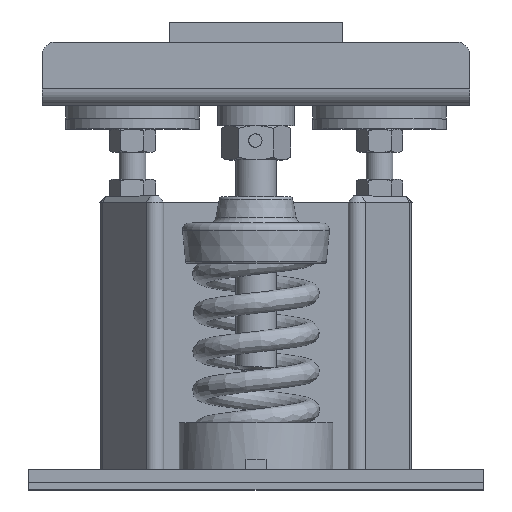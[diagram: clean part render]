
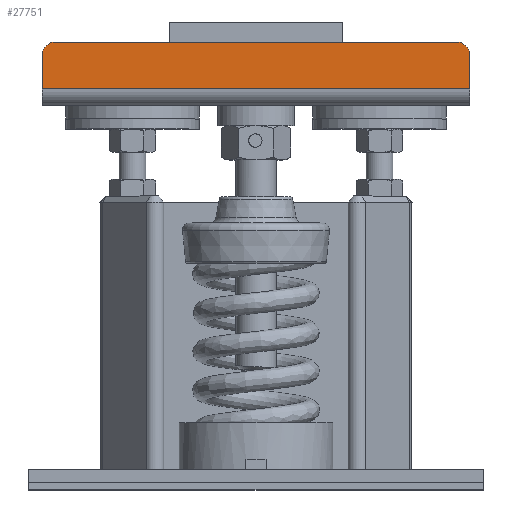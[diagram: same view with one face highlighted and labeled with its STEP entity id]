
A CAD part, top view. The second image highlights one B-rep face of the part: STEP entity #27751.
In plain terms, the highlighted planar face has unit normal (0, 0, 1) as drawn and (1, 0, 0) by its records, which use the part's own axes.
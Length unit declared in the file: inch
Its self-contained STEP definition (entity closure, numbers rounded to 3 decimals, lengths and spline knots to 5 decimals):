
#1318=PLANE($,#29608);
#2760=FACE_OUTER_BOUND($,#4424,.T.);
#4424=EDGE_LOOP($,(#20423,#20424,#20425,#20426,#20427,#20428));
#6333=CIRCLE($,#29600,0.25);
#6337=CIRCLE($,#29606,0.25);
#6760=LINE($,#39099,#10114);
#6761=LINE($,#39101,#10115);
#6762=LINE($,#39103,#10116);
#6763=LINE($,#39104,#10117);
#10114=VECTOR($,#32077,7.5548);
#10115=VECTOR($,#32078,0.62651);
#10116=VECTOR($,#32079,8.);
#10117=VECTOR($,#32080,0.62651);
#13420=VERTEX_POINT($,#39072);
#13421=VERTEX_POINT($,#39073);
#13428=VERTEX_POINT($,#39090);
#13429=VERTEX_POINT($,#39091);
#13432=VERTEX_POINT($,#39100);
#13433=VERTEX_POINT($,#39102);
#16158=EDGE_CURVE($,#13420,#13421,#6333,.T.);
#16166=EDGE_CURVE($,#13428,#13429,#6337,.T.);
#16170=EDGE_CURVE($,#13421,#13428,#6760,.T.);
#16171=EDGE_CURVE($,#13429,#13432,#6761,.T.);
#16172=EDGE_CURVE($,#13433,#13432,#6762,.T.);
#16173=EDGE_CURVE($,#13433,#13420,#6763,.T.);
#20423=ORIENTED_EDGE($,*,*,#16158,.T.);
#20424=ORIENTED_EDGE($,*,*,#16170,.T.);
#20425=ORIENTED_EDGE($,*,*,#16166,.T.);
#20426=ORIENTED_EDGE($,*,*,#16171,.T.);
#20427=ORIENTED_EDGE($,*,*,#16172,.F.);
#20428=ORIENTED_EDGE($,*,*,#16173,.T.);
#27751=ADVANCED_FACE($,(#2760),#1318,.T.);
#29600=AXIS2_PLACEMENT_3D($,#39074,#32053,#32054);
#29606=AXIS2_PLACEMENT_3D($,#39092,#32069,#32070);
#29608=AXIS2_PLACEMENT_3D($,#39098,#32075,#32076);
#32053=DIRECTION('center_axis',(1.,0.,0.));
#32054=DIRECTION('ref_axis',(0.,0.,-1.));
#32069=DIRECTION('center_axis',(1.,0.,0.));
#32070=DIRECTION('ref_axis',(0.,1.,0.));
#32075=DIRECTION('center_axis',(1.,0.,0.));
#32076=DIRECTION('ref_axis',(0.,0.,-1.));
#32077=DIRECTION($,(0.,0.,1.));
#32078=DIRECTION($,(0.,-1.,0.));
#32079=DIRECTION($,(0.,0.,1.));
#32080=DIRECTION($,(0.,1.,0.));
#39072=CARTESIAN_POINT('',(1.3753,0.875,0.));
#39073=CARTESIAN_POINT('',(1.3753,1.12349,0.2226));
#39074=CARTESIAN_POINT('Origin',(1.3753,0.875,0.25));
#39090=CARTESIAN_POINT('',(1.3753,1.12349,7.7774));
#39091=CARTESIAN_POINT('',(1.3753,0.875,8.));
#39092=CARTESIAN_POINT('Origin',(1.3753,0.875,7.75));
#39098=CARTESIAN_POINT('Origin',(1.3753,1.12349,0.));
#39099=CARTESIAN_POINT($,(1.3753,1.12349,0.));
#39100=CARTESIAN_POINT('',(1.3753,0.24849,8.));
#39101=CARTESIAN_POINT($,(1.3753,0.24849,8.));
#39102=CARTESIAN_POINT('',(1.3753,0.24849,0.));
#39103=CARTESIAN_POINT($,(1.3753,0.24849,0.));
#39104=CARTESIAN_POINT($,(1.3753,0.24849,0.));
